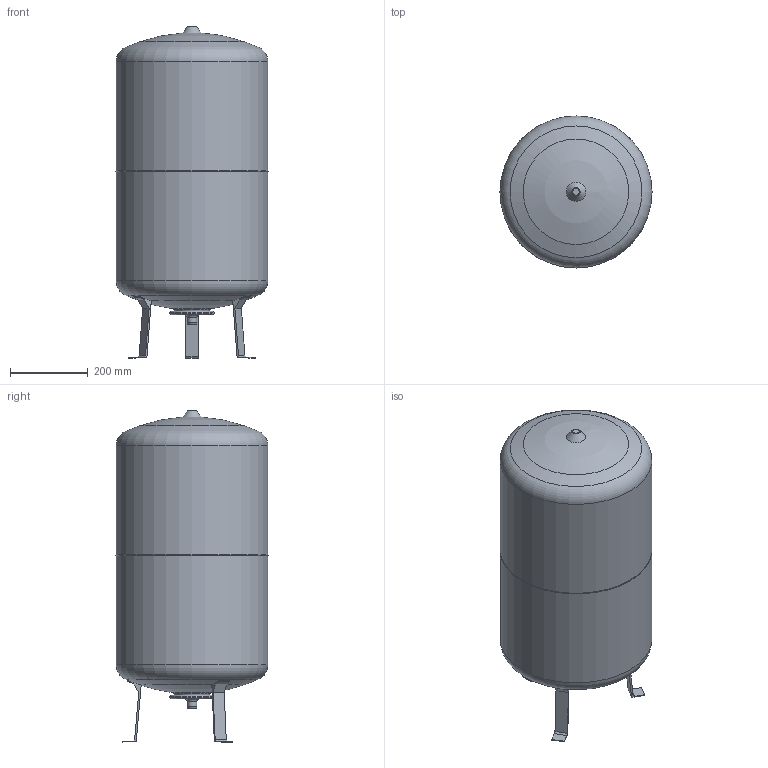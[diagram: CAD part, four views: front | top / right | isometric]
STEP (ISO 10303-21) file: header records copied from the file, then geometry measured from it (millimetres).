
FILE_DESCRIPTION(('STEP AP203'), '1');
FILE_NAME('306518.005-VT.A.R.050080', '2024-08-19T12:12:11', ('IT'), ('VESTA'), 'C3D Converter', 'C3D Toolkit', '');
FILE_SCHEMA(('CONFIG_CONTROL_DESIGN'));
Length unit declared in the file: millimetre
Bounding box: 390.8 x 390.8 x 853.53 mm (x, y, z)
Volume: 79198631.9 mm3; surface area: 1049728.8 mm2
Topology: 1 solids, 1 shells, 84 faces, 237 edges, 162 vertices
Faces by surface type: plane 48, torus 20, cylinder 11, cone 3, sphere 2
Full cylindrical faces by diameter (mm): 16 x1, 21.5 x1, 25.5 x1, 99.1 x1, 114 x1, 390 x2, 390.8 x1
Entity records: 3242 total; most frequent: CARTESIAN_POINT 1063, DIRECTION 467, ORIENTED_EDGE 408, EDGE_CURVE 204, AXIS2_PLACEMENT_3D 184, VERTEX_POINT 162, FACE_BOUND 124, EDGE_LOOP 124
